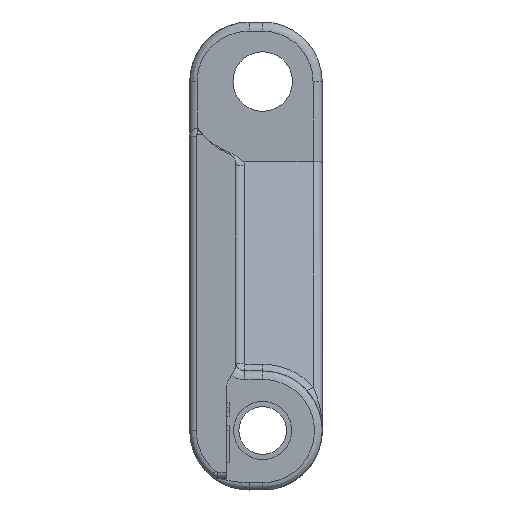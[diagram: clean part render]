
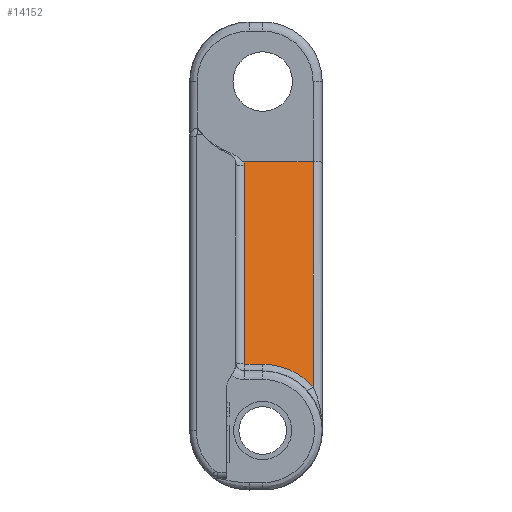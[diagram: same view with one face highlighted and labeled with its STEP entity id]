
A CAD part, left-side view. The second image highlights one B-rep face of the part: STEP entity #14152.
In plain terms, the highlighted planar face has unit normal (-0.972, 0, 0.233).
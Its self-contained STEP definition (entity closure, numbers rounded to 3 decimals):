
#1689=DIRECTION('',(-0.233,0.,-0.972));
#1690=VECTOR('',#1689,22.239);
#1691=CARTESIAN_POINT('',(-47.511,2.01,9.854));
#1692=LINE('',#1691,#1690);
#1725=CARTESIAN_POINT('',(-47.4,2.063,10.316));
#1726=CARTESIAN_POINT('',(-47.418,2.045,10.24));
#1727=CARTESIAN_POINT('',(-47.455,2.019,10.087));
#1728=CARTESIAN_POINT('',(-47.492,2.01,9.932));
#1729=CARTESIAN_POINT('',(-47.511,2.01,9.854));
#2036=DIRECTION('',(0.,-1.,0.));
#2037=VECTOR('',#2036,1.96);
#2038=CARTESIAN_POINT('',(-52.71,1.96,
-11.822));
#2039=LINE('',#2038,#2037);
#2040=CARTESIAN_POINT('',(-52.698,2.01,
-11.772));
#2041=CARTESIAN_POINT('',(-52.699,2.01,
-11.775));
#2042=CARTESIAN_POINT('',(-52.701,2.009,
-11.781));
#2043=CARTESIAN_POINT('',(-52.703,2.007,
-11.791));
#2044=CARTESIAN_POINT('',(-52.705,2.002,
-11.8));
#2045=CARTESIAN_POINT('',(-52.707,1.996,
-11.807));
#2046=CARTESIAN_POINT('',(-52.708,1.988,
-11.813));
#2047=CARTESIAN_POINT('',(-52.71,1.979,
-11.818));
#2048=CARTESIAN_POINT('',(-52.71,1.97,
-11.821));
#2049=CARTESIAN_POINT('',(-52.71,1.963,
-11.822));
#2050=CARTESIAN_POINT('',(-52.71,1.96,
-11.822));
#2069=CARTESIAN_POINT('',(-52.71,0.,
-11.822));
#2070=CARTESIAN_POINT('',(-52.71,-0.27,
-11.822));
#2071=CARTESIAN_POINT('',(-52.717,-0.818,
-11.85));
#2072=CARTESIAN_POINT('',(-52.752,-1.679,
-11.995));
#2073=CARTESIAN_POINT('',(-52.813,-2.543,
-12.249));
#2074=CARTESIAN_POINT('',(-52.9,-3.384,
-12.613));
#2075=CARTESIAN_POINT('',(-53.012,-4.173,
-13.078));
#2076=CARTESIAN_POINT('',(-53.144,-4.891,
-13.629));
#2077=CARTESIAN_POINT('',(-53.241,-5.306,
-14.034));
#2078=CARTESIAN_POINT('',(-53.292,-5.5,
-14.246));
#2123=DIRECTION('',(0.233,0.,0.972));
#2124=VECTOR('',#2123,25.259);
#2125=CARTESIAN_POINT('',(-53.292,-5.5,
-14.246));
#2126=LINE('',#2125,#2124);
#2314=DIRECTION('',(0.,-1.,0.));
#2315=VECTOR('',#2314,7.563);
#2316=CARTESIAN_POINT('',(-47.4,2.063,10.316));
#2317=LINE('',#2316,#2315);
#10207=VERTEX_POINT('',#2069);
#10208=VERTEX_POINT('',#2078);
#10213=CARTESIAN_POINT('',(-52.71,1.96,
-11.822));
#10214=VERTEX_POINT('',#10213);
#10219=CARTESIAN_POINT('',(-47.511,2.01,
9.854));
#10220=CARTESIAN_POINT('',(-52.698,2.01,
-11.772));
#10221=VERTEX_POINT('',#10219);
#10222=VERTEX_POINT('',#10220);
#10342=CARTESIAN_POINT('',(-47.4,-5.5,10.316));
#10343=VERTEX_POINT('',#10342);
#10468=VERTEX_POINT('',#1725);
#14135=CARTESIAN_POINT('',(-54.444,-6.5,-19.05));
#14136=DIRECTION('',(0.972,0.,-0.233));
#14137=DIRECTION('',(0.233,0.,0.972));
#14138=AXIS2_PLACEMENT_3D('',#14135,#14136,#14137);
#14139=PLANE('',#14138);
#14141=ORIENTED_EDGE('',*,*,#14140,.F.);
#14142=ORIENTED_EDGE('',*,*,#14067,.F.);
#14143=ORIENTED_EDGE('',*,*,#14127,.F.);
#14144=ORIENTED_EDGE('',*,*,#13576,.F.);
#14145=ORIENTED_EDGE('',*,*,#13630,.F.);
#14147=ORIENTED_EDGE('',*,*,#14146,.T.);
#14149=ORIENTED_EDGE('',*,*,#14148,.F.);
#14150=EDGE_LOOP('',(#14141,#14142,#14143,#14144,#14145,#14147,#14149));
#14151=FACE_OUTER_BOUND('',#14150,.F.);
#1730=B_SPLINE_CURVE_WITH_KNOTS('',3,(#1725,#1726,#1727,#1728,#1729),
.UNSPECIFIED.,.F.,.F.,(4,1,4),(0.,0.5,1.),.UNSPECIFIED.);
#2051=B_SPLINE_CURVE_WITH_KNOTS('',3,(#2040,#2041,#2042,#2043,#2044,#2045,#2046,
#2047,#2048,#2049,#2050),.UNSPECIFIED.,.F.,.F.,(4,1,1,1,1,1,1,1,4),(0.,
0.125,0.25,0.375,0.5,0.625,0.75,0.875,1.),.UNSPECIFIED.);
#2079=B_SPLINE_CURVE_WITH_KNOTS('',3,(#2069,#2070,#2071,#2072,#2073,#2074,#2075,
#2076,#2077,#2078),.UNSPECIFIED.,.F.,.F.,(4,1,1,1,1,1,1,4),(0.,
0.143,0.286,0.429,0.571,
0.714,0.857,1.),.UNSPECIFIED.);
#13576=EDGE_CURVE('',#10221,#10222,#1692,.T.);
#13630=EDGE_CURVE('',#10468,#10221,#1730,.T.);
#14067=EDGE_CURVE('',#10214,#10207,#2039,.T.);
#14127=EDGE_CURVE('',#10222,#10214,#2051,.T.);
#14140=EDGE_CURVE('',#10207,#10208,#2079,.T.);
#14146=EDGE_CURVE('',#10468,#10343,#2317,.T.);
#14148=EDGE_CURVE('',#10208,#10343,#2126,.T.);
#14152=ADVANCED_FACE('',(#14151),#14139,.F.);
